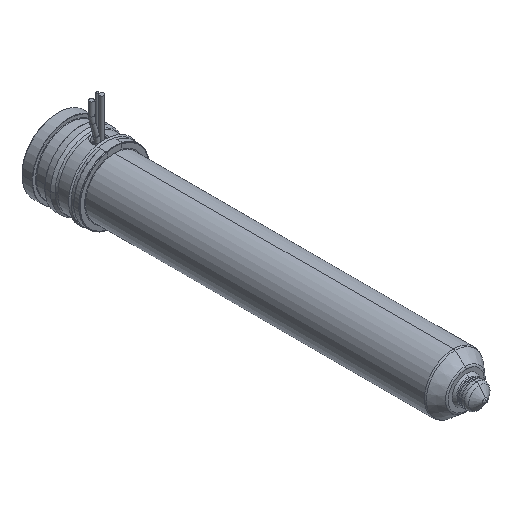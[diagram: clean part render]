
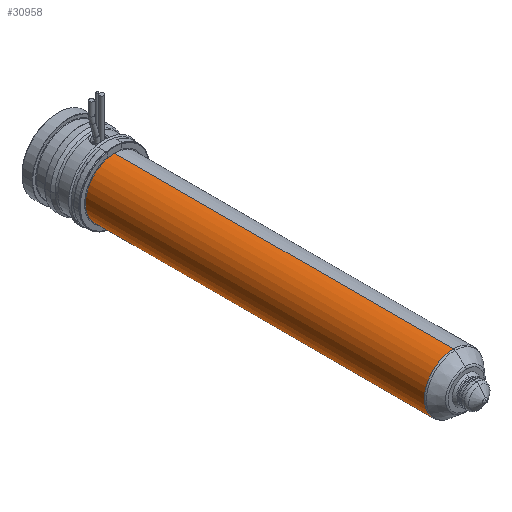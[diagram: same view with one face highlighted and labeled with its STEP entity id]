
A CAD part, isometric view. The second image highlights one B-rep face of the part: STEP entity #30958.
In plain terms, the highlighted cylindrical face has radius 12 mm (diameter 24 mm), a partial arc.
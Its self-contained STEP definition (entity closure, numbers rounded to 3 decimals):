
#30443=CARTESIAN_POINT('',(0.,-24.,0.));
#30444=DIRECTION('',(0.,1.,0.));
#30445=DIRECTION('',(0.,0.,-1.));
#30446=AXIS2_PLACEMENT_3D('',#30443,#30444,#30445);
#30451=DIRECTION('',(0.,1.,0.));
#30452=VECTOR('',#30451,139.736);
#30453=CARTESIAN_POINT('',(0.,-163.736,12.));
#30454=LINE('',#30453,#30452);
#30466=DIRECTION('',(0.,1.,0.));
#30467=VECTOR('',#30466,139.736);
#30468=CARTESIAN_POINT('',(0.,-163.736,-12.));
#30469=LINE('',#30468,#30467);
#30497=CARTESIAN_POINT('',(0.,-163.736,0.));
#30498=DIRECTION('',(0.,-1.,0.));
#30499=DIRECTION('',(0.,0.,1.));
#30500=AXIS2_PLACEMENT_3D('',#30497,#30498,#30499);
#30827=CARTESIAN_POINT('',(0.,-163.736,12.));
#30828=CARTESIAN_POINT('',(0.,-24.,12.));
#30829=VERTEX_POINT('',#30827);
#30830=VERTEX_POINT('',#30828);
#30831=CARTESIAN_POINT('',(0.,-163.736,-12.));
#30832=CARTESIAN_POINT('',(0.,-24.,-12.));
#30833=VERTEX_POINT('',#30831);
#30834=VERTEX_POINT('',#30832);
#30944=CARTESIAN_POINT('',(0.,-12.125,0.));
#30945=DIRECTION('',(0.,-1.,0.));
#30946=DIRECTION('',(0.,0.,1.));
#30947=AXIS2_PLACEMENT_3D('',#30944,#30945,#30946);
#30948=CYLINDRICAL_SURFACE('',#30947,12.);
#30950=ORIENTED_EDGE('',*,*,#30949,.F.);
#30952=ORIENTED_EDGE('',*,*,#30951,.T.);
#30954=ORIENTED_EDGE('',*,*,#30953,.T.);
#30955=ORIENTED_EDGE('',*,*,#30937,.T.);
#30956=EDGE_LOOP('',(#30950,#30952,#30954,#30955));
#30957=FACE_OUTER_BOUND('',#30956,.F.);
#30958=ADVANCED_FACE('',(#30957),#30948,.T.);
#30447=CIRCLE('',#30446,12.);
#30501=CIRCLE('',#30500,12.);
#30937=EDGE_CURVE('',#30834,#30830,#30447,.T.);
#30949=EDGE_CURVE('',#30829,#30830,#30454,.T.);
#30951=EDGE_CURVE('',#30829,#30833,#30501,.T.);
#30953=EDGE_CURVE('',#30833,#30834,#30469,.T.);
